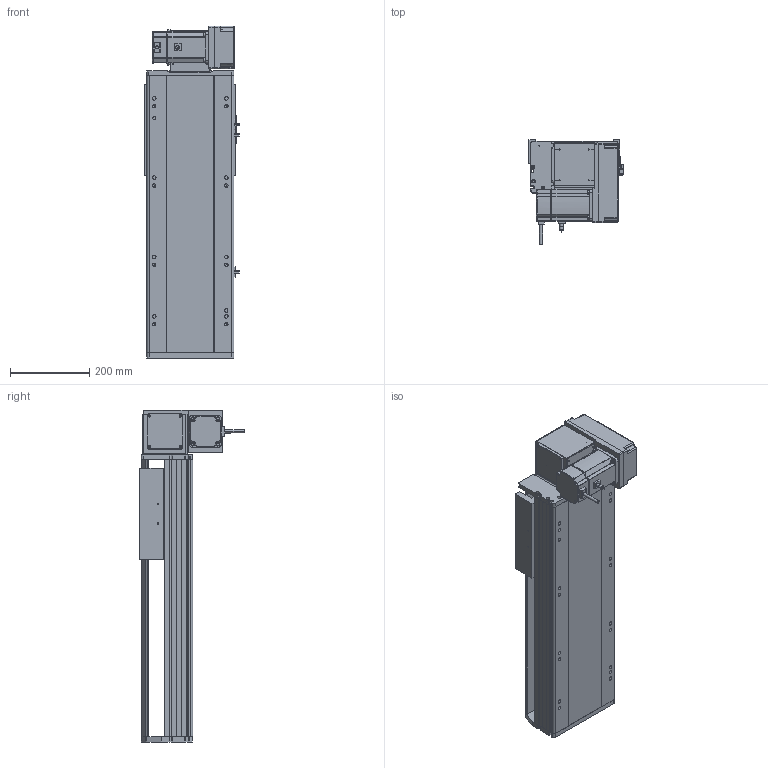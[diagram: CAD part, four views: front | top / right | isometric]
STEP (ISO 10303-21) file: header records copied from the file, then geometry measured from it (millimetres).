
FILE_DESCRIPTION (( 'STEP AP214' ), '1' );
FILE_NAME ('RTB22S-XX-350-RM-M75-C4.STEP', '2025-12-12T07:43:04', ( '' ), ( '' ), 'SwSTEP 2.0', 'SolidWorks 2018', '' );
FILE_SCHEMA (( 'AUTOMOTIVE_DESIGN' ));
Length unit declared in the file: millimetre
Products named in the file (14): RTB22S-GY-014--々湍釱^RTB22S-RM-々湍釱蚾饜_RTB22S-XX-XX-RM-M75-C4; RTB22S-RM-々湍釱蚾饜^RTB22S-XX-XX-RM-M75-C4; RTB22S-L-011菁釱^RTB22S-XX-XX-RM-M75-C4; RTB22S-XX-350-RM-M75-C4; 750W萇儂^RTB22S-XX-XX-RM-M75-C4; RTH22-GY-013外置感应片^RTB22S-XX-XX-RM-M75-C4; RTB22S-L-004賑釱^RTB22S-XX-XX-RM-M75-C4; RTB22S-GY-018P^RTB22S-RM-々湍釱蚾饜_RTB22S-XX-XX-RM-M75-C4; RTB22S-GY-008-M75--萇儂啣^RTB22S-RM-々湍釱蚾饜_RTB22S-XX-XX-RM-M75-C4; RTB22S-GY-007奻裔^RTB22S-XX-XX-RM-M75-C4; OMRON EE-SX672 传感器^RTB22S-XX-XX-RM-M75-C4; RTB22S-GY-005P^RTB22S-RM-々湍釱蚾饜_RTB22S-XX-XX-RM-M75-C4; RTB22S-GY-001耜裔^RTB22S-XX-XX-RM-M75-C4; RTB22S-GY-017P^RTB22S-RM-々湍釱蚾饜_RTB22S-XX-XX-RM-M75-C4
Assembly tree (16 placements, depth 3):
  RTB22S-XX-350-RM-M75-C4
    RTB22S-L-011菁釱^RTB22S-XX-XX-RM-M75-C4
    RTB22S-GY-001耜裔^RTB22S-XX-XX-RM-M75-C4
    750W萇儂^RTB22S-XX-XX-RM-M75-C4
    RTB22S-GY-007奻裔^RTB22S-XX-XX-RM-M75-C4
    RTB22S-L-004賑釱^RTB22S-XX-XX-RM-M75-C4
    RTH22-GY-013外置感应片^RTB22S-XX-XX-RM-M75-C4
    OMRON EE-SX672 传感器^RTB22S-XX-XX-RM-M75-C4  x3
    RTB22S-RM-々湍釱蚾饜^RTB22S-XX-XX-RM-M75-C4
      RTB22S-GY-014--々湍釱^RTB22S-RM-々湍釱蚾饜_RTB22S-XX-XX-RM-M75-C4
      RTB22S-GY-017P^RTB22S-RM-々湍釱蚾饜_RTB22S-XX-XX-RM-M75-C4  x2
      RTB22S-GY-005P^RTB22S-RM-々湍釱蚾饜_RTB22S-XX-XX-RM-M75-C4
      RTB22S-GY-008-M75--萇儂啣^RTB22S-RM-々湍釱蚾饜_RTB22S-XX-XX-RM-M75-C4
      RTB22S-GY-018P^RTB22S-RM-々湍釱蚾饜_RTB22S-XX-XX-RM-M75-C4
Bounding box: 238.5 x 264.7 x 837.5 mm (x, y, z)
Volume: 13718136.3 mm3; surface area: 1458624.6 mm2
Topology: 15 solids, 15 shells, 1911 faces, 5186 edges, 3332 vertices
Faces by surface type: plane 907, cylinder 574, bspline 296, cone 122, sphere 8, torus 4
Entity records: 50136 total; most frequent: CARTESIAN_POINT 14580, ORIENTED_EDGE 7192, DIRECTION 6850, EDGE_CURVE 3596, AXIS2_PLACEMENT_3D 2390, VERTEX_POINT 2336, VECTOR 2070, LINE 2070
